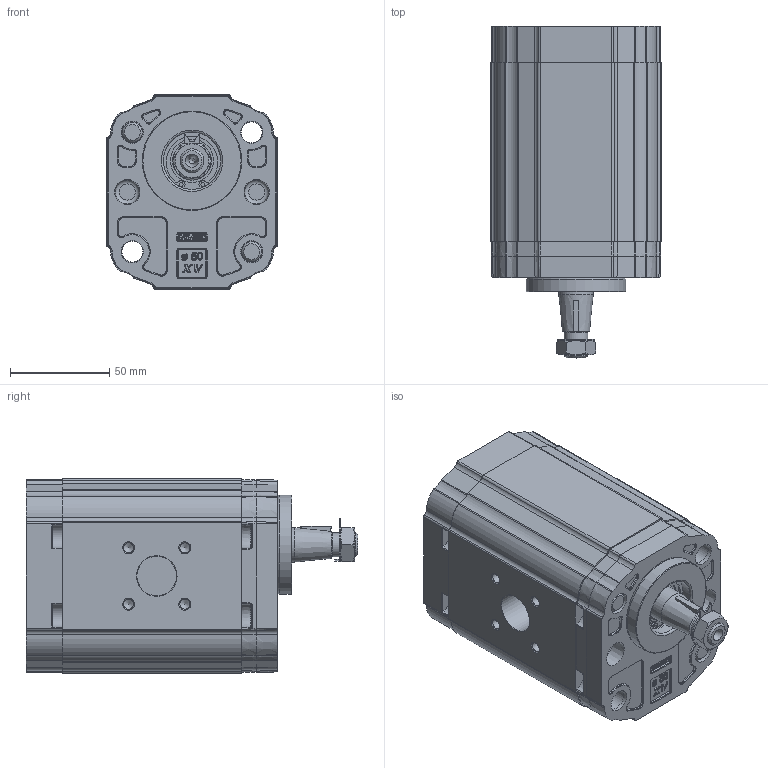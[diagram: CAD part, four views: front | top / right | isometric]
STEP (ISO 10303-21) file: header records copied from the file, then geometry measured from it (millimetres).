
FILE_DESCRIPTION(/* description */ ('Unknown'),/* implementation_level */ '2;1');
FILE_NAME(/* name */ 'X2T5912FSSD',/* time_stamp */ '2026-06-03T18:44:55+02:00',/* author */ ('Unknown'),/* organization */ ('Unknown'),/* preprocessor_version */ 'ST-DEVELOPER v16.7',/* originating_system */ 'Solid Edge',/* authorisation */ 'Unknown');
FILE_SCHEMA (('AUTOMOTIVE_DESIGN {1 0 10303 214 3 1 1}'));
Products named in the file (5): X2T5912FSSD; X2T12; 2F; X2SSH90; XT210-D
Assembly tree (4 placements, depth 2):
  X2T5912FSSD
    X2T12
    2F
    X2SSH90
    XT210-D
Bounding box: 86 x 166.85 x 98 mm (x, y, z)
Volume: 900334.2 mm3; surface area: 122182.4 mm2
Topology: 7 solids, 11 shells, 1788 faces, 4463 edges, 2752 vertices
Faces by surface type: cylinder 548, plane 486, bspline 302, cone 230, torus 179, sphere 43
Full cylindrical faces by diameter (mm): 2 x2, 3 x2, 5 x8, 10 x6, 10.5 x4, 11 x6, 12 x4, 12.5 x2, 17.42 x2, 17.48 x2, 18.724 x1, 20 x2, 20.595 x1, 21.741 x1, 25 x2, 25.834 x1, 28.56 x1, 28.57 x1, 28.8 x1, 30.5 x1, 32.5 x1, 36.5 x1, 50 x1
Entity records: 73448 total; most frequent: CARTESIAN_POINT 20455, ORIENTED_EDGE 8434, DIRECTION 8214, EDGE_CURVE 4217, AXIS2_PLACEMENT_3D 3291, VERTEX_POINT 2695, FACE_BOUND 2062, EDGE_LOOP 2051
